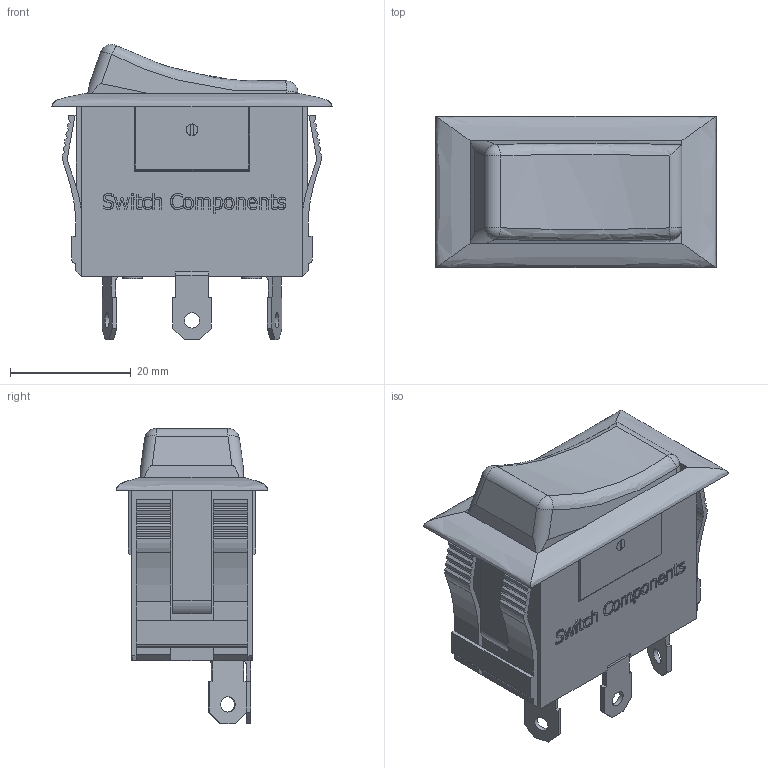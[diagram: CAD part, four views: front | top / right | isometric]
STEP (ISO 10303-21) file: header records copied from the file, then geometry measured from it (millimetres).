
FILE_DESCRIPTION(/* description */ (''),/* implementation_level */ '2;1');
FILE_NAME(/* name */ 'C:\Users\Hani\Desktop\work\SRB1-1E-DC-1-NN\SRB1-1E-DC-1-NN.stp',/* time_stamp */ '2023-03-31T11:52:37-07:00',/* author */ ('Hani'),/* organization */ (''),/* preprocessor_version */ 'ST-DEVELOPER v17',/* originating_system */ 'Autodesk Inventor 2019',/* authorisation */ '');
FILE_SCHEMA (('AUTOMOTIVE_DESIGN { 1 0 10303 214 3 1 1 }'));
Length unit declared in the file: inch
Products named in the file (8): SRB1-1B-DC-1-NN Rocker Switch; ROCKER SWITCH; terminal_MIR2; rivet; pin; botton1_MIR; terminal_MIR2_MIR; rivet_MIR
Assembly tree (9 placements, depth 2):
  SRB1-1B-DC-1-NN Rocker Switch
    ROCKER SWITCH
    terminal_MIR2  x2
    rivet  x2
    pin
    botton1_MIR
    terminal_MIR2_MIR
    rivet_MIR
Bounding box: 46.3 x 24.99 x 48.81 mm (x, y, z)
Volume: 27570 mm3; surface area: 10218.3 mm2
Topology: 9 solids, 9 shells, 541 faces, 1484 edges, 982 vertices
Faces by surface type: plane 348, bspline 141, cylinder 49, sphere 3
Full cylindrical faces by diameter (mm): 1.905 x2, 2.489 x3, 2.54 x6, 3.251 x3
Entity records: 17989 total; most frequent: CARTESIAN_POINT 5213, ORIENTED_EDGE 2852, DIRECTION 2050, EDGE_CURVE 1426, LINE 1040, VECTOR 1040, VERTEX_POINT 942, EDGE_LOOP 552
